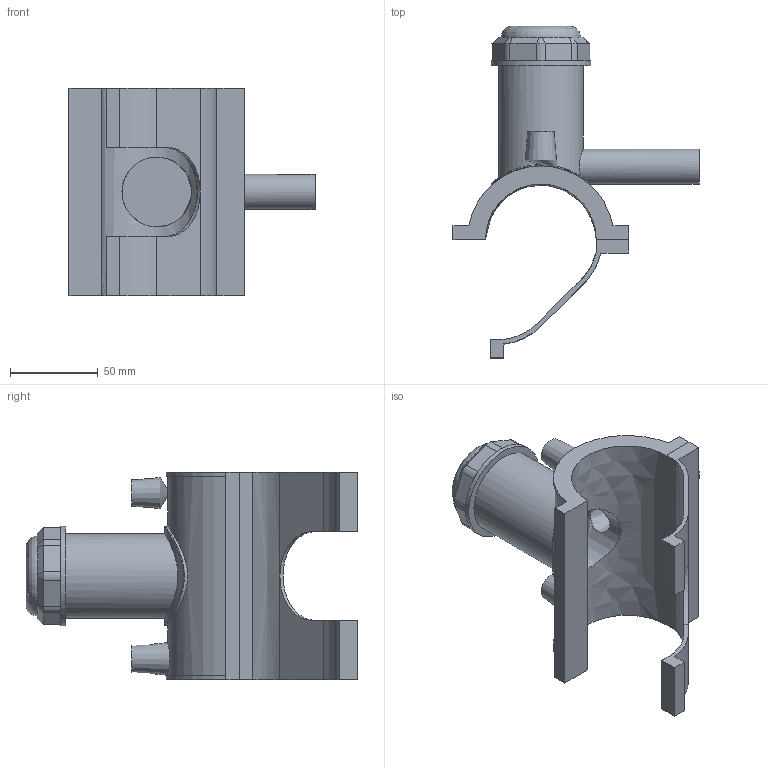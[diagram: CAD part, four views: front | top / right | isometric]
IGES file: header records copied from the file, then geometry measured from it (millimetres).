
Global section: file name: 496304063020N.ipt; native system: Autodesk Inventor 2015; preprocessor: unknown; author: KIM; date: 20190124.130623; units: millimetre
Bounding box: 140 x 188.78 x 118 mm (x, y, z)
Volume: 266621.4 mm3; surface area: 91803.8 mm2
Topology: 3 solids, 3 shells, 105 faces, 260 edges, 170 vertices
Faces by surface type: plane 63, cylinder 21, revolution 10, cone 10, bspline 1
Full cylindrical faces by diameter (mm): 4 x2, 20 x1, 48.195 x1, 56.7 x2
